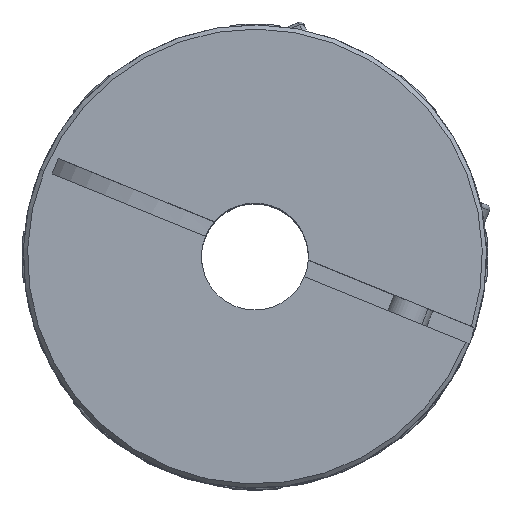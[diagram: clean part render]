
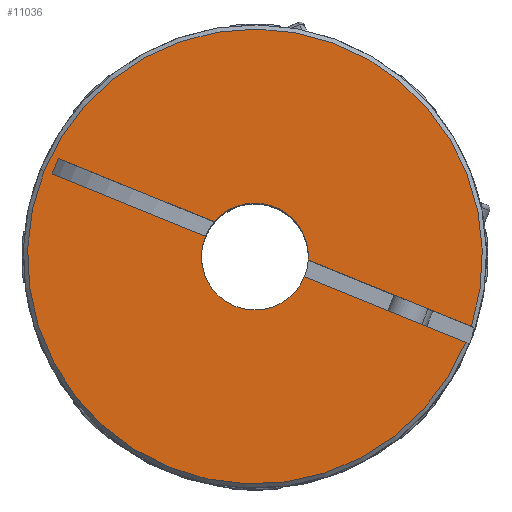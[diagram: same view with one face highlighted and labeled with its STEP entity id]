
A CAD part, top view. The second image highlights one B-rep face of the part: STEP entity #11036.
In plain terms, the highlighted planar face has unit normal (0, 0, 1) as drawn and (0, 0, -1) by its records, which use the part's own axes.
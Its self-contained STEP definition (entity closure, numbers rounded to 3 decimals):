
#133 = CARTESIAN_POINT ( 'NONE',  ( -36.226, 0., 0. ) ) ;
#521 = VERTEX_POINT ( 'NONE', #2894 ) ;
#708 = VECTOR ( 'NONE', #4362, 1000. ) ;
#782 = AXIS2_PLACEMENT_3D ( 'NONE', #11400, #3921, #7683 ) ;
#1006 = DIRECTION ( 'NONE',  ( -1., 0., 0. ) ) ;
#1678 = ORIENTED_EDGE ( 'NONE', *, *, #3813, .F. ) ;
#1680 = DIRECTION ( 'NONE',  ( 0., -1., 0. ) ) ;
#1726 = CARTESIAN_POINT ( 'NONE',  ( 6.35, 0., 0. ) ) ;
#2125 = ORIENTED_EDGE ( 'NONE', *, *, #6845, .T. ) ;
#2181 = LINE ( 'NONE', #6743, #9993 ) ;
#2286 = VERTEX_POINT ( 'NONE', #1726 ) ;
#2448 = AXIS2_PLACEMENT_3D ( 'NONE', #3538, #4520, #8296 ) ;
#2542 = DIRECTION ( 'NONE',  ( 1., 0., 0. ) ) ;
#2709 = EDGE_CURVE ( 'NONE', #8168, #2286, #7700, .T. ) ;
#2893 = EDGE_CURVE ( 'NONE', #11356, #9395, #11438, .T. ) ;
#2894 = CARTESIAN_POINT ( 'NONE',  ( -26.926, 2., 0. ) ) ;
#2901 = VERTEX_POINT ( 'NONE', #6688 ) ;
#3021 = AXIS2_PLACEMENT_3D ( 'NONE', #7231, #5368, #2542 ) ;
#3034 = CARTESIAN_POINT ( 'NONE',  ( 27., 0., 0. ) ) ;
#3086 = ORIENTED_EDGE ( 'NONE', *, *, #2893, .T. ) ;
#3087 = CARTESIAN_POINT ( 'NONE',  ( 6.027, 2., 0. ) ) ;
#3252 = CIRCLE ( 'NONE', #6386, 6.35 ) ;
#3446 = CARTESIAN_POINT ( 'NONE',  ( 26., 2., 0. ) ) ;
#3538 = CARTESIAN_POINT ( 'NONE',  ( 0., 0., 0. ) ) ;
#3813 = EDGE_CURVE ( 'NONE', #2901, #2286, #4950, .T. ) ;
#3921 = DIRECTION ( 'NONE',  ( 0., 0., -1. ) ) ;
#4164 = EDGE_CURVE ( 'NONE', #7866, #5720, #3252, .T. ) ;
#4270 = ORIENTED_EDGE ( 'NONE', *, *, #6184, .T. ) ;
#4321 = CARTESIAN_POINT ( 'NONE',  ( -6.027, 2., 0. ) ) ;
#4362 = DIRECTION ( 'NONE',  ( -1., 0., 0. ) ) ;
#4486 = CARTESIAN_POINT ( 'NONE',  ( -36.226, 2., 0. ) ) ;
#4520 = DIRECTION ( 'NONE',  ( 0., 0., -1. ) ) ;
#4573 = CARTESIAN_POINT ( 'NONE',  ( 0., 0., 0. ) ) ;
#4614 = ORIENTED_EDGE ( 'NONE', *, *, #4164, .T. ) ;
#4950 = LINE ( 'NONE', #5628, #11919 ) ;
#4951 = CARTESIAN_POINT ( 'NONE',  ( -6.35, 0., 0. ) ) ;
#5152 = VECTOR ( 'NONE', #1680, 1000. ) ;
#5308 = FACE_OUTER_BOUND ( 'NONE', #7846, .T. ) ;
#5368 = DIRECTION ( 'NONE',  ( 0., 0., 1. ) ) ;
#5544 = EDGE_CURVE ( 'NONE', #8168, #9395, #8605, .T. ) ;
#5628 = CARTESIAN_POINT ( 'NONE',  ( -36.226, 0., 0. ) ) ;
#5683 = DIRECTION ( 'NONE',  ( -1., 0., 0. ) ) ;
#5720 = VERTEX_POINT ( 'NONE', #4321 ) ;
#6033 = ORIENTED_EDGE ( 'NONE', *, *, #10089, .F. ) ;
#6184 = EDGE_CURVE ( 'NONE', #5720, #521, #6397, .T. ) ;
#6296 = DIRECTION ( 'NONE',  ( 0., 0., 1. ) ) ;
#6386 = AXIS2_PLACEMENT_3D ( 'NONE', #4573, #6296, #10077 ) ;
#6397 = LINE ( 'NONE', #4486, #708 ) ;
#6688 = CARTESIAN_POINT ( 'NONE',  ( 26., 0., 0. ) ) ;
#6743 = CARTESIAN_POINT ( 'NONE',  ( -36.226, 2., 0. ) ) ;
#6803 = VECTOR ( 'NONE', #9832, 1000. ) ;
#6845 = EDGE_CURVE ( 'NONE', #9320, #7866, #2181, .T. ) ;
#6988 = LINE ( 'NONE', #11180, #5152 ) ;
#7231 = CARTESIAN_POINT ( 'NONE',  ( 0., 0., 0. ) ) ;
#7316 = DIRECTION ( 'NONE',  ( 1., 0., 0. ) ) ;
#7683 = DIRECTION ( 'NONE',  ( 1., 0., 0. ) ) ;
#7700 = CIRCLE ( 'NONE', #8489, 6.35 ) ;
#7765 = CIRCLE ( 'NONE', #2448, 27. ) ;
#7846 = EDGE_LOOP ( 'NONE', ( #4270, #8574, #3086, #9156, #10362, #1678, #6033, #2125, #4614 ) ) ;
#7866 = VERTEX_POINT ( 'NONE', #3087 ) ;
#8167 = PLANE ( 'NONE',  #3021 ) ;
#8168 = VERTEX_POINT ( 'NONE', #4951 ) ;
#8203 = CARTESIAN_POINT ( 'NONE',  ( 0., 0., 0. ) ) ;
#8296 = DIRECTION ( 'NONE',  ( 1., 0., 0. ) ) ;
#8489 = AXIS2_PLACEMENT_3D ( 'NONE', #8203, #9066, #7316 ) ;
#8574 = ORIENTED_EDGE ( 'NONE', *, *, #11836, .T. ) ;
#8605 = LINE ( 'NONE', #133, #6803 ) ;
#9066 = DIRECTION ( 'NONE',  ( 0., 0., 1. ) ) ;
#9156 = ORIENTED_EDGE ( 'NONE', *, *, #5544, .F. ) ;
#9248 = CARTESIAN_POINT ( 'NONE',  ( -27., 0., 0. ) ) ;
#9320 = VERTEX_POINT ( 'NONE', #3446 ) ;
#9395 = VERTEX_POINT ( 'NONE', #9248 ) ;
#9832 = DIRECTION ( 'NONE',  ( -1., 0., 0. ) ) ;
#9993 = VECTOR ( 'NONE', #1006, 1000. ) ;
#10077 = DIRECTION ( 'NONE',  ( 1., 0., 0. ) ) ;
#10089 = EDGE_CURVE ( 'NONE', #9320, #2901, #6988, .T. ) ;
#10362 = ORIENTED_EDGE ( 'NONE', *, *, #2709, .T. ) ;
#11036 = ADVANCED_FACE ( 'NONE', ( #5308 ), #8167, .F. ) ;
#11180 = CARTESIAN_POINT ( 'NONE',  ( 26., 2., 0. ) ) ;
#11356 = VERTEX_POINT ( 'NONE', #3034 ) ;
#11400 = CARTESIAN_POINT ( 'NONE',  ( 0., 0., 0. ) ) ;
#11438 = CIRCLE ( 'NONE', #782, 27. ) ;
#11836 = EDGE_CURVE ( 'NONE', #521, #11356, #7765, .T. ) ;
#11919 = VECTOR ( 'NONE', #5683, 1000. ) ;
